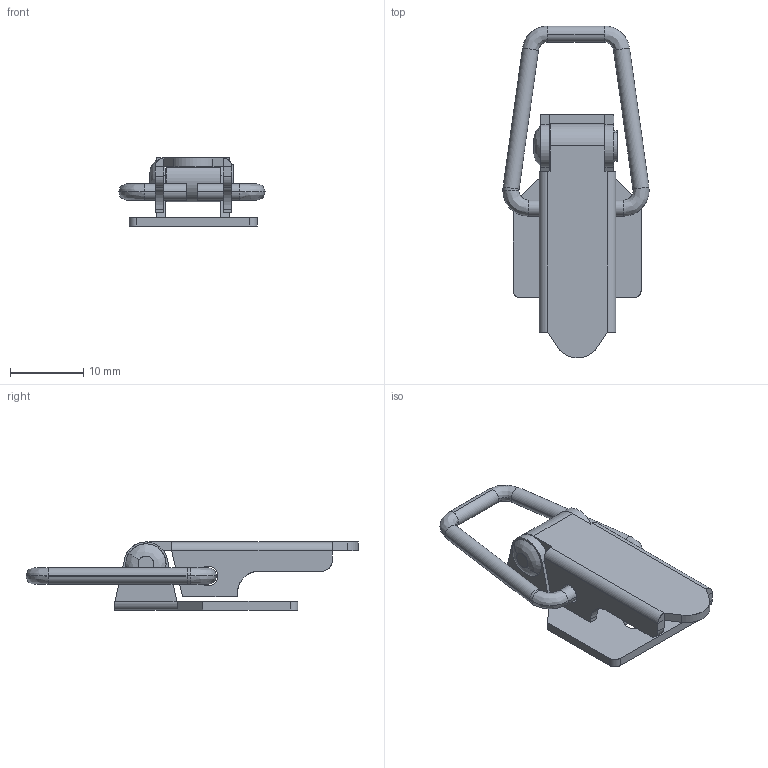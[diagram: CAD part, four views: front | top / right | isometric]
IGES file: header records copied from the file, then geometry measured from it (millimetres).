
Start section: SolidWorks IGES FILE using analytic representation for surfaces
Global section: file name: C:\WINNT\Profiles\cbrechard\Bureau\GO 533\GO 533.IGS; native system: SolidWorks 2001Plus by SolidWorks Corporation; preprocessor: Version 5.3; author: CBRECHARD; date: 050125.145429; units: millimetre
Bounding box: 20 x 45.4 x 9.3 mm (x, y, z)
Surface area: 2929.5 mm2 (no closed solid volume)
Topology: 0 solids, 0 shells, 117 faces, 1510 edges, 1510 vertices
Faces by surface type: bspline 72, revolution 45
